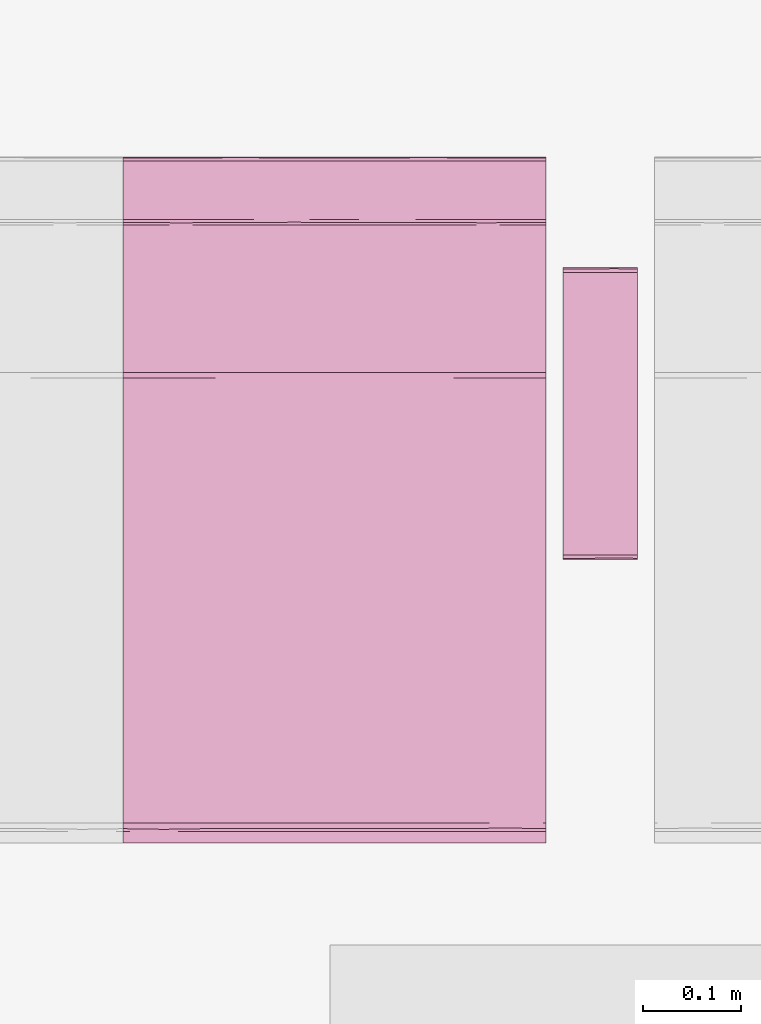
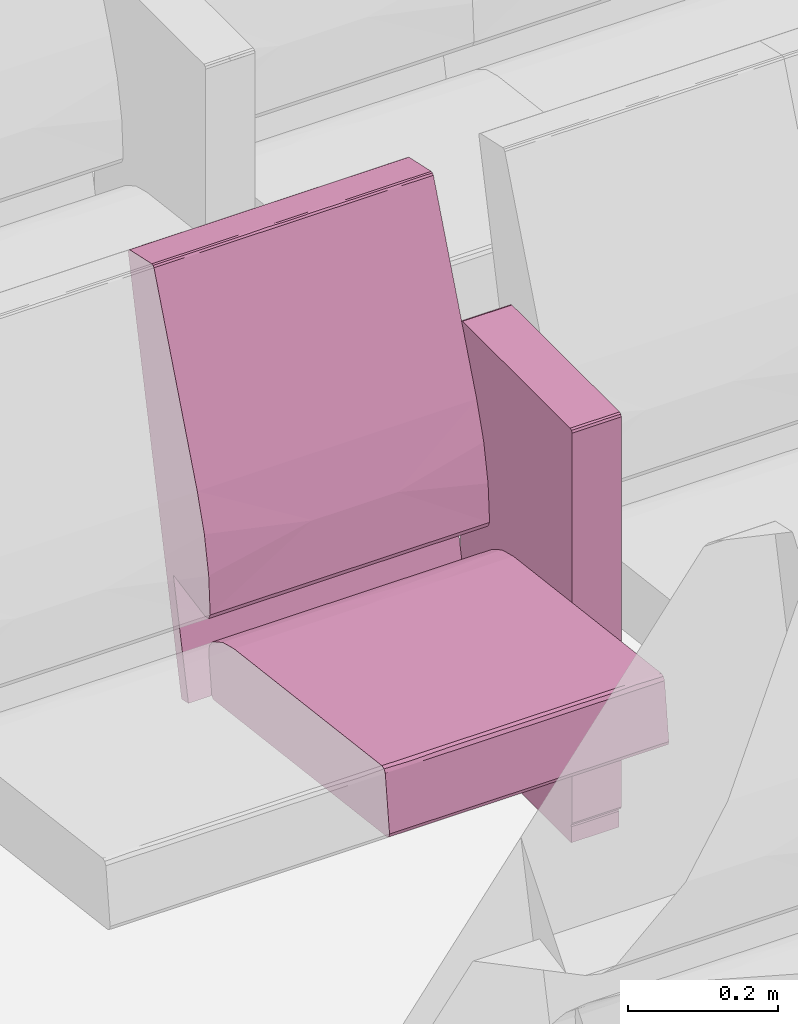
# One storey, part 106 of 155: 1 furnishing.
"""IFC2X3 building model written with IfcOpenShell, lengths in metres."""

from ifc_helpers import new_model, entity, si_unit, converted_unit, derived_unit, direction, frame, origin, place, context, subcontext, project, spatial, faceted_brep, source, transform, mapped, material, material_list, type_object, type_shapes, element, save


model = new_model("IFC2X3")

# Units and contexts
model_context = context("Model", 3, precision=1e-05, world=origin(), true_north=direction((6.12303176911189e-17, 1.0)))
body_context = subcontext(model_context, "Body", "Model", "MODEL_VIEW")
ifc_project = project(units=[si_unit("LENGTHUNIT", "METRE"), si_unit("AREAUNIT", "SQUARE_METRE"), si_unit("VOLUMEUNIT", "CUBIC_METRE"), converted_unit("PLANEANGLEUNIT", "DEGREE", entity("IfcRatioMeasure", 0.0174532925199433), si_unit("PLANEANGLEUNIT", "RADIAN"), dimensions=[0, 0, 0, 0, 0, 0, 0]), si_unit("MASSUNIT", "GRAM", prefix="KILO"), derived_unit("MASSDENSITYUNIT", [(si_unit("MASSUNIT", "GRAM", prefix="KILO"), 1), (si_unit("LENGTHUNIT", "METRE"), -3)]), si_unit("TIMEUNIT", "SECOND"), si_unit("FREQUENCYUNIT", "HERTZ"), si_unit("THERMODYNAMICTEMPERATUREUNIT", "DEGREE_CELSIUS"), derived_unit("THERMALTRANSMITTANCEUNIT", [(si_unit("MASSUNIT", "GRAM", prefix="KILO"), 1), (si_unit("THERMODYNAMICTEMPERATUREUNIT", "KELVIN"), -1), (si_unit("TIMEUNIT", "SECOND"), -3)]), derived_unit("VOLUMETRICFLOWRATEUNIT", [(si_unit("LENGTHUNIT", "METRE"), 3), (si_unit("TIMEUNIT", "SECOND"), -1)]), si_unit("ELECTRICCURRENTUNIT", "AMPERE"), si_unit("ELECTRICVOLTAGEUNIT", "VOLT"), si_unit("POWERUNIT", "WATT"), si_unit("FORCEUNIT", "NEWTON", prefix="KILO"), si_unit("ILLUMINANCEUNIT", "LUX"), si_unit("LUMINOUSFLUXUNIT", "LUMEN"), si_unit("LUMINOUSINTENSITYUNIT", "CANDELA"), derived_unit("USERDEFINED", [(si_unit("MASSUNIT", "GRAM", prefix="KILO"), -1), (si_unit("LENGTHUNIT", "METRE"), -2), (si_unit("TIMEUNIT", "SECOND"), 3), (si_unit("LUMINOUSFLUXUNIT", "LUMEN"), 1)]), derived_unit("LINEARVELOCITYUNIT", [(si_unit("LENGTHUNIT", "METRE"), 1), (si_unit("TIMEUNIT", "SECOND"), -1)]), si_unit("PRESSUREUNIT", "PASCAL"), derived_unit("USERDEFINED", [(si_unit("LENGTHUNIT", "METRE"), -2), (si_unit("MASSUNIT", "GRAM", prefix="KILO"), 1), (si_unit("TIMEUNIT", "SECOND"), -2)])], contexts=[model_context])

# Site, building, storey, space
site_placement = place(None, frame((26.9889013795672, -17.5624287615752, 0.0)))
site = spatial("IfcSite", under=ifc_project, at=site_placement, Name="Default", CompositionType="ELEMENT")
building_placement = place(site_placement, origin())
building = spatial("IfcBuilding", under=site, at=building_placement, Name="C. C. L. Monsenhor Antônio Sampaio", CompositionType="ELEMENT")
storey_placement = place(building_placement, frame((0.0, 0.0, 1.19999999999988)))
storey = spatial("IfcBuildingStorey", under=building, at=storey_placement, Name="Nível 1.2", CompositionType="ELEMENT", Elevation=1.19999999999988)
space_placement = place(storey_placement, origin())
space = spatial("IfcSpace", under=storey, at=space_placement, Name="94", CompositionType="ELEMENT", InteriorOrExteriorSpace="INTERNAL")

# Furnishing
ifc_material_1 = material(Name="V9 - V9 - Ecopelle_672_658")
ifc_material_2 = material(Name="V9 - V9 - RAL_9006_Grigio")
ifc_material_list_1 = material_list([ifc_material_1, ifc_material_2])
ifc_material_list_2 = material_list([ifc_material_1, ifc_material_2])
furniture_type = type_object("IfcFurnitureType", Name="Cadeira auditório", material=ifc_material_list_2)
shared_shape = source(origin(), body_context, "Body", "Brep", [
    faceted_brep([(0.405536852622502, -0.1075, 0.339809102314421), (0.410560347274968, -0.131924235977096, 0.34246450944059), (0.405536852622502, -0.156348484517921, 0.339809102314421), (0.41079981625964, -0.0179166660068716, 0.342749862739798), (0.410597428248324, -0.084060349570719, 0.342506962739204), (0.405536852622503, -0.0537499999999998, 0.339809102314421), (0.410248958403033, -0.173608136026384, 0.342130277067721), (0.405536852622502, -0.215, 0.339809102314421), (0.412515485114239, -0.143333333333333, 0.348529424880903), (0.412515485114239, -0.185674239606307, 0.348529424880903), (0.405536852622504, 0.1075, 0.33980910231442), (0.405536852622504, 0.156348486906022, 0.33980910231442), (0.410560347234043, 0.131924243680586, 0.342464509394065), (0.405536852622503, 0.0, 0.33980910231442), (0.411170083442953, 0.0341365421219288, 0.343251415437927), (0.41251548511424, 0.0, 0.348529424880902), (0.412515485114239, -0.0358333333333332, 0.348529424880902), (0.412515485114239, -0.0716666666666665, 0.348529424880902), (0.41251548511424, 0.143333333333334, 0.348529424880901), (0.41059742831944, 0.0840603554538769, 0.342506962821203), (0.405536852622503, 0.0537500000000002, 0.33980910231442), (0.410248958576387, 0.173608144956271, 0.342130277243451), (0.410799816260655, 0.215, 0.342749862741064), (0.412515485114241, 0.185674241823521, 0.348529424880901), (0.412515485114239, -0.215, 0.348529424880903), (0.410799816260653, -0.215, 0.342749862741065), (0.412515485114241, 0.215, 0.348529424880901), (0.41251548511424, 0.0716666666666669, 0.348529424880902), (0.405536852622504, 0.215, 0.33980910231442), (-0.0557900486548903, -0.215, 0.28268145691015), (-0.0557900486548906, -0.1881249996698, 0.282681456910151), (-0.0557900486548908, -0.161250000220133, 0.282681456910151), (-0.055790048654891, -0.134374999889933, 0.282681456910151), (-0.0557900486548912, -0.107499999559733, 0.282681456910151), (-0.0557900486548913, -0.0806250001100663, 0.282681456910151), (-0.0557900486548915, -0.0537499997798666, 0.282681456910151), (-0.0557900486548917, -0.0268749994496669, 0.282681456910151), (-0.0557900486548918, 0.0, 0.28268145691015), (-0.0557900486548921, 0.0268750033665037, 0.282681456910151), (-0.0557900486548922, 0.0537499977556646, 0.282681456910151), (-0.0557900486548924, 0.0806249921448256, 0.282681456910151), (-0.0557900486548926, 0.107499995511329, 0.282681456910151), (-0.0557900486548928, 0.138065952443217, 0.282681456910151), (-0.055790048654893, 0.168631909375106, 0.282681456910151), (-0.0557900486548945, 0.215, 0.28268145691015), (-0.0594787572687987, -0.0179017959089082, 0.283700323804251), (-0.0613666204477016, 0.0, 0.287029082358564), (-0.0594787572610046, 0.0152829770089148, 0.283700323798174), (-0.0594787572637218, -0.215, 0.283700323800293), (-0.0613666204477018, -0.215, 0.287029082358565), (-0.0613666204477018, -0.191815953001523, 0.287029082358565), (-0.0613666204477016, -0.030565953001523, 0.287029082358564), (-0.0593340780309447, -0.0671874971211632, 0.283591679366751), (-0.0593337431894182, 0.184174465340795, 0.283591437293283), (-0.0594787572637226, 0.215, 0.283700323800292), (-0.0593023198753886, 0.0940625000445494, 0.283568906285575), (-0.0613666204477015, 0.0611319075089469, 0.287029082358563), (-0.0613666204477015, 0.0916978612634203, 0.287029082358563), (-0.0613666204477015, 0.122263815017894, 0.287029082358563), (-0.0597338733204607, -0.147039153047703, 0.283913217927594), (-0.0613666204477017, -0.122263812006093, 0.287029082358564), (-0.059382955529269, -0.118123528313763, 0.28362747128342), (-0.0592501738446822, -0.180223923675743, 0.283532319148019), (-0.0613666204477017, -0.168631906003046, 0.287029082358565), (-0.0588783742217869, -0.0926899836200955, 0.283298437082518), (-0.0613666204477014, 0.168631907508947, 0.287029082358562), (-0.0613666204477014, 0.215, 0.287029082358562), (-0.0592576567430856, 0.123736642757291, 0.283537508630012), (-0.0594787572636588, 0.153348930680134, 0.283700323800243), (-0.0613666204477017, -0.0916978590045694, 0.287029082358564), (-0.0613666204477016, 0.0305659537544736, 0.287029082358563), (-0.059645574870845, 0.045848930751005, 0.283836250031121), (-0.0613666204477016, -0.0611319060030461, 0.287029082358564), (-0.0693403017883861, 0.143333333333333, 0.351419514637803), (-0.069340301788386, 0.215, 0.351419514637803), (-0.0693403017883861, -0.215, 0.351419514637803), (-0.0693403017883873, -0.143333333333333, 0.351419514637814), (-0.069340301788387, -0.0716666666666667, 0.351419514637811), (-0.0693403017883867, 0.0, 0.351419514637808), (-0.0693403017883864, 0.0716666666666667, 0.351419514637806), (-0.0653387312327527, -0.0126787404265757, 0.368680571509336), (-0.0645543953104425, -0.112272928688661, 0.369803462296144), (-0.0597085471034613, 0.0, 0.37476954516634), (-0.0655136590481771, 0.104400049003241, 0.368411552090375), (-0.0681665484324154, 0.0888707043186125, 0.36292533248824), (-0.0694879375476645, -0.0590582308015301, 0.356377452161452), (-0.0695056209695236, 0.125492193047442, 0.356093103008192), (-0.0597085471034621, 0.110316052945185, 0.374769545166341), (-0.0676206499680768, -0.215, 0.364371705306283), (-0.0672851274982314, -0.108066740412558, 0.365148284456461), (-0.0690003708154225, -0.132942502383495, 0.359900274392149), (-0.068624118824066, -0.215, 0.356813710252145), (-0.0686241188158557, 0.214999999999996, 0.356813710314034), (-0.0694502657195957, 0.0358333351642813, 0.356863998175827), (-0.0686999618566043, -0.035833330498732, 0.36116674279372), (-0.067620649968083, 0.214999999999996, 0.364371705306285), (-0.063664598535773, 0.214999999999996, 0.369570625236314), (-0.0597085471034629, 0.214999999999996, 0.374769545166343), (-0.0597085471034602, -0.110316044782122, 0.374769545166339), (-0.0636645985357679, -0.215, 0.36957062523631), (-0.0597085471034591, -0.215, 0.374769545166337), (-0.0018793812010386, -0.215, 0.398686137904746), (-0.0324117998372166, -0.0436847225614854, 0.39063968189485), (-0.0324117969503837, -0.215, 0.390639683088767), (-0.041847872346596, 0.0856576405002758, 0.386239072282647), (-0.00187938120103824, 0.102488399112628, 0.398686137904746), (-0.00187938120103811, 0.215, 0.398686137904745), (-0.0324117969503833, 0.215, 0.390639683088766), (-0.0219042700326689, 0.0570631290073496, 0.394412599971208), (-0.00187938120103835, 0.0, 0.398686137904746), (0.392202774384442, -0.215, 0.447486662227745), (0.392202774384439, -0.156349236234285, 0.447486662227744), (0.392202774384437, -0.107499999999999, 0.447486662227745), (0.392202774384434, -0.0537499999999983, 0.447486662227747), (0.392202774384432, 0.0, 0.447486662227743), (0.392202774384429, 0.0537500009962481, 0.44748666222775), (0.392202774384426, 0.107500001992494, 0.447486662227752), (0.392202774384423, 0.156349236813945, 0.447486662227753), (0.392202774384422, 0.215, 0.447486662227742), (0.397860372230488, 0.0827732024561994, 0.446039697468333), (0.401125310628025, 0.0976984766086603, 0.440530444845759), (0.398104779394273, 0.131924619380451, 0.445856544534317), (0.397373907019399, 0.173462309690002, 0.446363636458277), (0.401125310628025, 0.156349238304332, 0.440530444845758), (0.401125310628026, 0.215000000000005, 0.440530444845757), (0.398104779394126, 0.215000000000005, 0.445856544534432), (0.397860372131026, -0.0827731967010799, 0.446039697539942), (0.398104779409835, -0.131924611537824, 0.445856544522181), (0.398104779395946, -0.0268749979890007, 0.445856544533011), (0.398104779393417, 0.0237489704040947, 0.445856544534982), (0.401125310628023, -0.0488492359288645, 0.440530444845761), (0.401125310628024, 0.0488492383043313, 0.44053044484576), (0.398774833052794, -0.173462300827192, 0.445271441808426), (0.401125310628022, -0.0976984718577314, 0.440530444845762), (0.39810477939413, -0.215, 0.445856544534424), (0.401125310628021, -0.215, 0.440530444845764), (0.401125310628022, -0.156349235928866, 0.440530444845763), (0.401125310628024, 0.0, 0.44053044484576)], [[[0, 1, 2]], [[3, 4, 5]], [[2, 6, 7]], [[8, 9, 6]], [[10, 11, 12]], [[13, 3, 5]], [[3, 14, 15]], [[1, 4, 8]], [[6, 1, 8]], [[4, 3, 16]], [[16, 17, 8, 4]], [[12, 18, 19]], [[4, 1, 0]], [[20, 14, 13]], [[21, 22, 23]], [[15, 16, 3]], [[9, 24, 25]], [[26, 23, 22]], [[7, 6, 25]], [[12, 11, 21]], [[19, 14, 20]], [[4, 0, 5]], [[14, 27, 15]], [[13, 14, 3]], [[19, 18, 27]], [[19, 10, 12]], [[18, 21, 23]], [[10, 19, 20]], [[19, 27, 14]], [[2, 1, 6]], [[21, 11, 28]], [[25, 6, 9]], [[18, 12, 21]], [[22, 21, 28]], [[28, 11, 10, 20, 13, 5, 0, 2, 7, 29, 30, 31, 32, 33, 34, 35, 36, 37, 38, 39, 40, 41, 42, 43, 44]], [[45, 46, 47]], [[48, 49, 50]], [[51, 45, 52]], [[53, 54, 44]], [[55, 56, 57, 58]], [[59, 60, 61]], [[62, 63, 59]], [[34, 64, 52]], [[53, 65, 66]], [[41, 67, 42]], [[37, 36, 35, 45, 47, 38]], [[43, 42, 68]], [[29, 48, 30]], [[59, 31, 62]], [[62, 48, 50]], [[61, 69, 64]], [[65, 53, 68]], [[50, 63, 62]], [[62, 30, 48]], [[55, 58, 67]], [[32, 31, 59]], [[46, 70, 47]], [[65, 68, 58]], [[55, 40, 71]], [[70, 56, 71]], [[61, 33, 32]], [[59, 63, 60]], [[39, 38, 71, 40]], [[47, 71, 38]], [[51, 46, 45]], [[70, 71, 47]], [[71, 56, 55]], [[40, 55, 41]], [[67, 68, 42]], [[43, 68, 53]], [[43, 53, 44]], [[66, 54, 53]], [[68, 67, 58]], [[55, 67, 41]], [[72, 51, 52, 69]], [[62, 31, 30]], [[59, 61, 32]], [[35, 52, 45]], [[64, 34, 33]], [[34, 52, 35]], [[61, 60, 69]], [[52, 64, 69]], [[61, 64, 33]], [[73, 74, 66, 65, 58, 57, 56, 70, 46, 51, 72, 69, 60, 63, 50, 49, 75, 76, 77, 78, 79]], [[80, 81, 82]], [[83, 84, 80]], [[85, 78, 77, 76]], [[73, 79, 86]], [[80, 82, 83]], [[87, 83, 82]], [[88, 89, 90]], [[76, 75, 91]], [[92, 74, 73]], [[91, 90, 85]], [[80, 89, 81]], [[84, 93, 94]], [[84, 86, 93]], [[93, 78, 85]], [[73, 86, 92]], [[94, 93, 85]], [[95, 92, 84]], [[78, 93, 79]], [[80, 84, 94]], [[83, 96, 95]], [[94, 85, 90]], [[87, 97, 96]], [[98, 99, 100]], [[91, 85, 76]], [[94, 90, 89]], [[90, 91, 88]], [[89, 80, 94]], [[89, 99, 81]], [[89, 88, 99]], [[82, 81, 98]], [[81, 99, 98]], [[92, 86, 84]], [[93, 86, 79]], [[84, 83, 95]], [[96, 83, 87]], [[101, 102, 103]], [[104, 97, 87, 82]], [[105, 106, 107]], [[107, 108, 105]], [[109, 102, 101]], [[82, 102, 104]], [[102, 108, 104]], [[103, 102, 100]], [[97, 104, 107]], [[104, 108, 107]], [[102, 82, 98, 100]], [[105, 108, 109]], [[108, 102, 109]], [[109, 101, 110, 111, 112, 113, 114, 115, 116, 117, 118, 106, 105]], [[119, 120, 121]], [[122, 123, 124]], [[122, 125, 118]], [[126, 113, 112]], [[117, 121, 122]], [[121, 117, 116]], [[112, 111, 127]], [[113, 128, 129, 115, 114]], [[126, 130, 128]], [[129, 131, 119]], [[111, 132, 127]], [[132, 111, 110]], [[133, 126, 127]], [[123, 122, 121]], [[132, 134, 135]], [[127, 132, 136]], [[123, 121, 120]], [[127, 136, 133]], [[129, 128, 130, 137, 131]], [[112, 127, 126]], [[126, 133, 130]], [[119, 121, 116]], [[113, 126, 128]], [[119, 115, 129]], [[119, 116, 115]], [[120, 119, 131]], [[117, 122, 118]], [[124, 125, 122]], [[136, 132, 135]], [[110, 134, 132]], [[137, 130, 133, 136, 135, 24, 9, 8, 17, 16, 15, 27, 18, 23, 26, 124, 123, 120, 131]], [[44, 54, 66, 74, 92, 95, 96, 97, 107, 106, 118, 125, 124, 26, 22, 28]], [[75, 49, 48, 29, 7, 25, 24, 135, 134, 110, 101, 103, 100, 99, 88, 91]]]),
    faceted_brep([(0.119812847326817, 0.27, 0.674900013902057), (0.12334838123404, 0.259944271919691, 0.6734355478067), (0.123144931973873, 0.283972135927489, 0.673627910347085), (0.124812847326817, 0.27, 0.669900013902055), (0.119812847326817, 0.232, 0.674900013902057), (0.12334838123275, 0.232, 0.673435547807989), (0.124812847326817, 0.308, 0.669900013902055), (0.119812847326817, 0.308, 0.674900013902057), (0.124812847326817, 0.249888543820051, 0.669900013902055), (0.124812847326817, 0.232, 0.669900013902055), (0.12334838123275, 0.308, 0.673435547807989), (0.124812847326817, 0.232, 0.0349999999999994), (0.124812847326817, 0.27, 0.035), (0.124812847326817, 0.308, 0.035), (0.12334838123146, 0.25994427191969, 0.0314644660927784), (0.123540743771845, 0.283972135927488, 0.0316679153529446), (0.119812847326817, 0.27, 0.0300000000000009), (0.12334838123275, 0.232, 0.0314644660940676), (0.119812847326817, 0.308, 0.0300000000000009), (0.119812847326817, 0.249888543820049, 0.030000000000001), (0.119812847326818, 0.232, 0.030000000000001), (0.123348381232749, 0.308, 0.0314644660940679), (-0.167179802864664, 0.27, 0.0300000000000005), (-0.167179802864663, 0.308, 0.0300000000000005), (-0.167179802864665, 0.232, 0.0300000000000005), (-0.170715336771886, 0.25994427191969, 0.0314644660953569), (-0.17051188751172, 0.283972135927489, 0.0312721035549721), (-0.172179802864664, 0.27, 0.0350000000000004), (-0.170715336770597, 0.232, 0.0314644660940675), (-0.172179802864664, 0.308, 0.0350000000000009), (-0.172179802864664, 0.24988854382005, 0.0350000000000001), (-0.172179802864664, 0.232, 0.0349999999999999), (-0.170715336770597, 0.308, 0.0314644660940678), (-0.172179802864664, 0.308, 0.669900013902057), (-0.172179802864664, 0.232, 0.669900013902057), (-0.172179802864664, 0.27, 0.669900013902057), (-0.170715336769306, 0.259944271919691, 0.673435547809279), (-0.170907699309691, 0.283972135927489, 0.673232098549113), (-0.167179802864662, 0.27, 0.674900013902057), (-0.170715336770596, 0.232, 0.67343554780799), (-0.167179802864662, 0.308, 0.674900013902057), (-0.167179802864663, 0.249888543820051, 0.674900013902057), (-0.167179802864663, 0.232, 0.674900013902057), (-0.170715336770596, 0.308, 0.67343554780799)], [[[0, 1, 2]], [[3, 2, 1]], [[0, 4, 5, 1]], [[2, 3, 6]], [[0, 2, 7]], [[8, 3, 1, 5, 9]], [[7, 2, 10]], [[6, 10, 2]], [[9, 11, 12, 13, 6, 3, 8]], [[12, 14, 15]], [[16, 15, 14]], [[12, 11, 17, 14]], [[15, 16, 18]], [[12, 15, 13]], [[19, 16, 14, 17, 20]], [[13, 15, 21]], [[18, 21, 15]], [[22, 23, 18, 16, 19, 20, 24]], [[22, 25, 26]], [[27, 26, 25]], [[22, 24, 28, 25]], [[26, 27, 29]], [[22, 26, 23]], [[30, 27, 25, 28, 31]], [[23, 26, 32]], [[29, 32, 26]], [[33, 29, 27, 30, 31, 34, 35]], [[35, 36, 37]], [[38, 37, 36]], [[35, 34, 39, 36]], [[37, 38, 40]], [[35, 37, 33]], [[41, 38, 36, 39, 42]], [[33, 37, 43]], [[40, 43, 37]], [[0, 7, 40, 38, 41, 42, 4]], [[42, 39, 34, 31, 28, 24, 20, 17, 11, 9, 5, 4]], [[23, 32, 29, 33, 43, 40, 7, 10, 6, 13, 21, 18]]]),
    faceted_brep([(-0.0655618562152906, -0.215, 0.415143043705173), (-0.0744051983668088, -0.0524423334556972, 0.506888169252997), (-0.0695672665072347, -0.215, 0.476508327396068), (-0.0655618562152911, 0.0, 0.415143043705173), (-0.0744051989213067, 0.0780075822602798, 0.506888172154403), (-0.0655618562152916, 0.1075, 0.415143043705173), (-0.0655618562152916, 0.215, 0.415143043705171), (-0.0655618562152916, -0.1075, 0.415143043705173), (-0.0695672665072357, 0.215, 0.476508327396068), (-0.0811110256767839, 0.215, 0.536911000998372), (-0.0811110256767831, -0.215, 0.536911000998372), (-0.100016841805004, 0.0, 0.595428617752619), (-0.100016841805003, -0.215, 0.595428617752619), (-0.100016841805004, 0.215, 0.595428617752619), (-0.0792851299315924, -0.0716666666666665, 0.404772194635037), (-0.0792851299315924, 0.0, 0.404772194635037), (-0.0698317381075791, -0.0358333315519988, 0.406528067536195), (-0.0698317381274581, 0.215, 0.406528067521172), (-0.0792851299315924, 0.143333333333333, 0.404772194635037), (-0.0792851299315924, 0.215, 0.404772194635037), (-0.0698317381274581, -0.215, 0.406528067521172), (-0.0792851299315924, -0.215, 0.404772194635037), (-0.0792851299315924, -0.143333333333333, 0.404772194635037), (-0.0694171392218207, -0.140338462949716, 0.406857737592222), (-0.0708115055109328, 0.0356393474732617, 0.405868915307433), (-0.0703502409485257, 0.107500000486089, 0.406159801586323), (-0.0792851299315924, 0.0716666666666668, 0.404772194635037), (-0.163837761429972, 0.215, 0.420611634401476), (-0.163837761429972, -0.215, 0.420611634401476), (-0.123612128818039, -0.215, 0.235917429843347), (-0.123612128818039, 0.215, 0.235917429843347), (-0.142059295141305, -0.215, 0.231899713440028), (-0.142059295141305, 0.215, 0.231899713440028), (-0.235388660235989, -0.215, 0.652619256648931), (-0.235388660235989, 0.215, 0.652619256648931), (-0.28428001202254, 0.0, 0.873004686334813), (-0.284280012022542, 0.0268749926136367, 0.873004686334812), (-0.284280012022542, 0.0537499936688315, 0.873004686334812), (-0.284280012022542, 0.0806249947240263, 0.873004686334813), (-0.284280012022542, 0.107499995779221, 0.873004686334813), (-0.284280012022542, 0.134374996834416, 0.873004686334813), (-0.284280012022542, 0.161249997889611, 0.873004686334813), (-0.284280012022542, 0.191295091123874, 0.873004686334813), (-0.28428001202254, 0.215, 0.873004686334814), (-0.284280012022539, -0.215, 0.873004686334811), (-0.28428001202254, -0.191295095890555, 0.873004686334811), (-0.284280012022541, -0.161249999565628, 0.873004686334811), (-0.284280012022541, -0.134374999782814, 0.873004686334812), (-0.284280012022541, -0.1075, 0.873004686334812), (-0.284280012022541, -0.0806250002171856, 0.873004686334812), (-0.284280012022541, -0.0537500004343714, 0.873004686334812), (-0.284280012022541, -0.0268749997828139, 0.873004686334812), (-0.283504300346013, -0.0569644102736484, 0.877068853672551), (-0.283746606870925, -0.0872244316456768, 0.876674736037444), (-0.283641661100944, 0.12093750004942, 0.876855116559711), (-0.283567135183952, 0.15546176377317, 0.876973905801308), (-0.28330409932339, -0.185293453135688, 0.877344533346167), (-0.283567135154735, -0.155461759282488, 0.876973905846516), (-0.280514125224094, 0.0, 0.879190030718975), (-0.280514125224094, 0.0358333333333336, 0.879190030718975), (-0.283641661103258, 0.0136463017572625, 0.876855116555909), (-0.283641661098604, -0.0179166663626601, 0.876855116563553), (-0.280514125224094, -0.0358333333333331, 0.879190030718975), (-0.280514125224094, 0.1075, 0.879190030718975), (-0.280514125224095, 0.143333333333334, 0.879190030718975), (-0.283746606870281, 0.0872244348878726, 0.876674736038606), (-0.280514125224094, 0.071666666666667, 0.879190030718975), (-0.280514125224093, -0.1075, 0.879190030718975), (-0.280514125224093, -0.0716666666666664, 0.879190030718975), (-0.280514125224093, -0.143333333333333, 0.879190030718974), (-0.283641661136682, -0.120937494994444, 0.876855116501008), (-0.283641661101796, -0.215, 0.876855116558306), (-0.283641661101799, 0.215, 0.876855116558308), (-0.280514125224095, 0.167590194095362, 0.879190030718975), (-0.283304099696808, 0.18529345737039, 0.877344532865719), (-0.280514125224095, 0.215, 0.879190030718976), (-0.280514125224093, -0.167590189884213, 0.879190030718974), (-0.280514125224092, -0.215, 0.879190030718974), (-0.283504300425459, 0.0569644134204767, 0.8770688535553), (-0.221112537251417, -0.215, 0.892176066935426), (-0.221112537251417, -0.19181594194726, 0.892176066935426), (-0.221112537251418, -0.16124999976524, 0.892176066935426), (-0.221112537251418, -0.13437499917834, 0.892176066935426), (-0.221112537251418, -0.10749999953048, 0.892176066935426), (-0.221112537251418, -0.08062499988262, 0.892176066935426), (-0.221112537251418, -0.0537500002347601, 0.892176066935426), (-0.221112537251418, -0.0268750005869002, 0.892176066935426), (-0.221112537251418, 0.0, 0.892176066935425), (-0.221112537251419, 0.0268750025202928, 0.892176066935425), (-0.221112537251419, 0.053749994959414, 0.892176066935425), (-0.221112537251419, 0.0806249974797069, 0.892176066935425), (-0.221112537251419, 0.1075, 0.892176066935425), (-0.221112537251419, 0.134375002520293, 0.892176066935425), (-0.221112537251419, 0.161250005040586, 0.892176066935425), (-0.221112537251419, 0.191815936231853, 0.892176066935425), (-0.221112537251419, 0.215, 0.892176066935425), (-0.217722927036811, -0.0162353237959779, 0.891719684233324), (-0.215419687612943, -0.0358333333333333, 0.889191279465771), (-0.215419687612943, 0.0, 0.889191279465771), (-0.217722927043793, 0.0134375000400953, 0.891719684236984), (-0.217722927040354, 0.120937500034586, 0.89171968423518), (-0.217722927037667, 0.0912646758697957, 0.891719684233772), (-0.215419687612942, 0.0716666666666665, 0.88919127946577), (-0.215419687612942, 0.1075, 0.88919127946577), (-0.215419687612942, 0.143333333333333, 0.88919127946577), (-0.217722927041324, 0.215, 0.891719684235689), (-0.217722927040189, 0.182482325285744, 0.891719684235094), (-0.215419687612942, 0.168631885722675, 0.889191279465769), (-0.215419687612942, 0.191815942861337, 0.889191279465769), (-0.215419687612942, 0.215, 0.889191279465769), (-0.217722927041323, -0.215, 0.89171968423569), (-0.215419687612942, -0.215, 0.889191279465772), (-0.215419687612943, -0.191815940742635, 0.889191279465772), (-0.217722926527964, -0.190103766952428, 0.891719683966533), (-0.2179983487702, 0.039082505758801, 0.891853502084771), (-0.217816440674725, 0.0647800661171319, 0.891767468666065), (-0.217558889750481, 0.155982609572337, 0.891629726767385), (-0.217722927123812, -0.120937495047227, 0.891719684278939), (-0.217558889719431, -0.15598260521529, 0.891629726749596), (-0.215419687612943, -0.143333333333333, 0.889191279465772), (-0.215419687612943, -0.16863188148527, 0.889191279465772), (-0.215419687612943, -0.0716666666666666, 0.889191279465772), (-0.217816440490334, -0.0647800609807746, 0.891767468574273), (-0.217722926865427, -0.0912646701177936, 0.891719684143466), (-0.215419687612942, 0.0358333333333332, 0.889191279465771), (-0.215419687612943, -0.1075, 0.889191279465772), (-0.218257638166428, -0.0404491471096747, 0.891961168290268)], [[[0, 1, 2]], [[3, 4, 1]], [[4, 3, 5, 6]], [[1, 0, 7, 3]], [[8, 4, 6]], [[9, 4, 8]], [[1, 10, 2]], [[1, 11, 12]], [[9, 13, 4]], [[13, 11, 4]], [[10, 1, 12]], [[11, 1, 4]], [[14, 15, 16]], [[17, 18, 19]], [[20, 21, 22]], [[20, 23, 0]], [[3, 7, 16]], [[15, 24, 16]], [[24, 25, 5]], [[22, 23, 20]], [[7, 23, 16]], [[6, 5, 17]], [[16, 24, 3]], [[16, 23, 14]], [[23, 22, 14]], [[18, 25, 26]], [[18, 17, 25]], [[26, 24, 15]], [[7, 0, 23]], [[5, 25, 17]], [[25, 24, 26]], [[3, 24, 5]], [[27, 19, 18, 26, 15, 14, 22, 21, 28]], [[27, 28, 29, 30]], [[31, 32, 30, 29]], [[33, 34, 32, 31]], [[35, 36, 37, 38, 39, 40, 41, 42, 43, 34, 33, 44, 45, 46, 47, 48, 49, 50, 51]], [[52, 49, 53]], [[54, 55, 40]], [[46, 56, 57]], [[58, 59, 60, 61, 62]], [[54, 63, 64]], [[65, 66, 63]], [[67, 68, 53]], [[57, 69, 70]], [[45, 56, 46]], [[39, 54, 40]], [[45, 44, 71]], [[72, 43, 42]], [[35, 51, 61, 60, 36]], [[55, 73, 74]], [[39, 65, 54]], [[74, 73, 75]], [[67, 53, 70]], [[74, 42, 41]], [[64, 73, 55]], [[56, 76, 57]], [[74, 72, 42]], [[76, 56, 77]], [[56, 71, 77]], [[57, 76, 69]], [[48, 70, 53]], [[70, 48, 47]], [[60, 78, 36]], [[63, 54, 65]], [[71, 56, 45]], [[41, 55, 74]], [[72, 74, 75]], [[57, 70, 47]], [[47, 46, 57]], [[69, 67, 70]], [[50, 49, 52, 51]], [[52, 62, 61]], [[61, 51, 52]], [[55, 41, 40]], [[55, 54, 64]], [[66, 65, 78]], [[65, 38, 78]], [[52, 53, 68]], [[37, 36, 78, 38]], [[78, 59, 66]], [[59, 78, 60]], [[49, 48, 53]], [[65, 39, 38]], [[52, 68, 62]], [[79, 80, 81, 82, 83, 84, 85, 86, 87, 88, 89, 90, 91, 92, 93, 94, 95, 75, 73, 64, 63, 66, 59, 58, 62, 68, 67, 69, 76, 77]], [[96, 97, 98, 99]], [[100, 101, 102, 103, 104]], [[105, 106, 107, 108, 109]], [[110, 111, 112]], [[80, 110, 113]], [[89, 114, 115]], [[92, 116, 93]], [[94, 93, 106, 105, 95]], [[80, 79, 110]], [[92, 91, 90, 101, 100]], [[99, 88, 87, 86, 96]], [[104, 107, 116]], [[117, 83, 82]], [[117, 118, 119]], [[112, 120, 113]], [[118, 120, 119]], [[118, 81, 113]], [[116, 107, 106]], [[101, 90, 115]], [[121, 122, 123]], [[104, 116, 100]], [[110, 112, 113]], [[114, 99, 124]], [[92, 100, 116]], [[117, 125, 123]], [[82, 81, 118]], [[118, 117, 82]], [[83, 117, 123]], [[125, 117, 119]], [[102, 101, 115]], [[84, 83, 123]], [[123, 125, 121]], [[85, 84, 122]], [[89, 115, 90]], [[96, 86, 126]], [[124, 102, 115]], [[88, 99, 114]], [[99, 98, 124]], [[122, 121, 97]], [[126, 122, 97]], [[88, 114, 89]], [[115, 114, 124]], [[123, 122, 84]], [[126, 85, 122]], [[85, 126, 86]], [[96, 126, 97]], [[116, 106, 93]], [[80, 113, 81]], [[118, 113, 120]], [[12, 11, 13, 109, 108, 107, 104, 103, 102, 124, 98, 97, 121, 125, 119, 120, 112, 111]], [[30, 32, 34, 43, 72, 75, 95, 105, 109, 13, 9, 8, 6, 17, 19, 27]], [[77, 71, 44, 33, 31, 29, 28, 21, 20, 0, 2, 10, 12, 111, 110, 79]]]),
    faceted_brep([(0.120312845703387, 0.2335, 0.0), (0.120312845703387, 0.3065, 0.0), (0.120312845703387, 0.3065, 0.0260000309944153), (0.120312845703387, 0.27, 0.0260000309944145), (0.120312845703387, 0.249500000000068, 0.0260000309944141), (0.120312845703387, 0.2335, 0.0260000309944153), (-0.167687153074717, 0.2335, 0.0), (-0.167687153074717, 0.3065, 0.0), (-0.167687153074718, 0.3065, 0.0260000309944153), (-0.167687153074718, 0.2335, 0.0260000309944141), (-0.167687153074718, 0.27, 0.0260000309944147), (-0.163702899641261, 0.233500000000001, 0.0300000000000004), (-0.166521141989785, 0.257382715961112, 0.0288228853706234), (-0.166521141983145, 0.233500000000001, 0.0288228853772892), (-0.166521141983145, 0.3065, 0.0288228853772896), (-0.16652114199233, 0.279986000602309, 0.0288228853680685), (-0.163702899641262, 0.3065, 0.0300000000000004), (-0.163702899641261, 0.27, 0.0300000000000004), (0.116297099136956, 0.2335, 0.0300000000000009), (0.116297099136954, 0.270000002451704, 0.0300000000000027), (0.116297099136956, 0.3065, 0.0300000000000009), (0.119033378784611, 0.283124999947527, 0.0289323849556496), (0.119135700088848, 0.259750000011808, 0.0288340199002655), (0.1191357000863, 0.2335, 0.0288340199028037), (0.119135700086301, 0.3065, 0.0288340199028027)], [[[0, 1, 2, 3, 4, 5]], [[6, 7, 1, 0]], [[8, 7, 6, 9, 10]], [[11, 12, 13]], [[14, 15, 16]], [[17, 16, 15, 12, 11]], [[13, 12, 10, 9]], [[8, 15, 14]], [[12, 15, 8, 10]], [[16, 17, 11, 18, 19, 20]], [[3, 2, 21]], [[22, 19, 18, 23]], [[22, 23, 5, 4, 3]], [[20, 21, 24]], [[22, 3, 21]], [[19, 21, 20]], [[2, 24, 21]], [[19, 22, 21]], [[20, 24, 2, 1, 7, 8, 14, 16]], [[18, 11, 13, 9, 6, 0, 5, 23]]]),
])
type_shapes(furniture_type, [shared_shape])
furnishing_placement = place(space_placement, frame((-8.60594929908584, -14.3320195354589, 0.0), z_axis=(0.0, 0.0, 1.0), x_axis=(0.0, -1.0, 0.0)))
element("IfcFurnishingElement", 1, at=furnishing_placement, inside=space, type_object=furniture_type, material=ifc_material_list_1, Name="cadeira auditório pcd:Cadeira auditório", ObjectType="Cadeira auditório", context=body_context, shape_type="MappedRepresentation", body=[
    mapped(shared_shape, transform((0.0, 0.0, 0.0), scale=1.0)),
])

save(model, "model.ifc")
